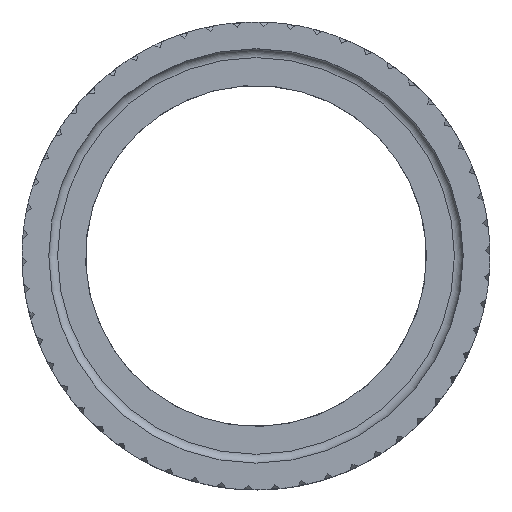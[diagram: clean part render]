
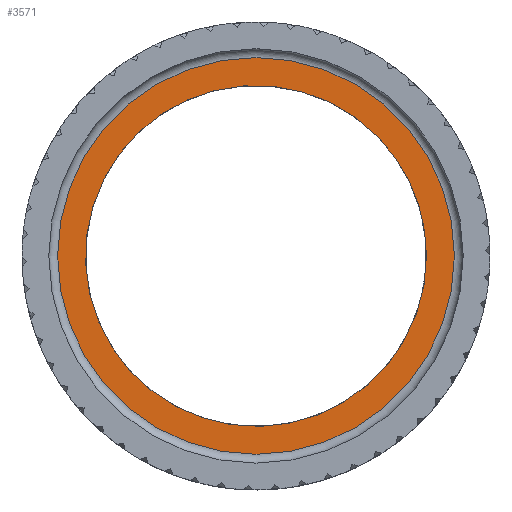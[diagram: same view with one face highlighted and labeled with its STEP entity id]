
A CAD part, top view. The second image highlights one B-rep face of the part: STEP entity #3571.
In plain terms, the highlighted planar face has unit normal (0, 0, 1).
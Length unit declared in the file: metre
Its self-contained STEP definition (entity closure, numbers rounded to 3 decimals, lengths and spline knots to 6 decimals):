
#681=ORIENTED_EDGE('',*,*,#1909,.T.);
#682=ORIENTED_EDGE('',*,*,#1910,.T.);
#1909=EDGE_CURVE('',#2523,#2523,#2935,.F.);
#1910=EDGE_CURVE('',#2524,#2524,#2936,.T.);
#2523=VERTEX_POINT('',#4436);
#2524=VERTEX_POINT('',#4438);
#2935=CIRCLE('',#3797,0.03375);
#2936=CIRCLE('',#3798,0.029);
#3053=EDGE_LOOP('',(#681));
#3054=EDGE_LOOP('',(#682));
#3275=FACE_BOUND('',#3053,.T.);
#3276=FACE_BOUND('',#3054,.T.);
#3497=PLANE('',#3796);
#3571=ADVANCED_FACE('',(#3275,#3276),#3497,.F.);
#3796=AXIS2_PLACEMENT_3D('',#4434,#3998,#3999);
#3797=AXIS2_PLACEMENT_3D('',#4435,#4000,#4001);
#3798=AXIS2_PLACEMENT_3D('',#4437,#4002,#4003);
#3998=DIRECTION('',(0.,0.,-1.));
#3999=DIRECTION('',(0.819,0.574,0.));
#4000=DIRECTION('',(0.,0.,-1.));
#4001=DIRECTION('',(1.,0.,0.));
#4002=DIRECTION('',(0.,0.,-1.));
#4003=DIRECTION('',(1.,0.,0.));
#4434=CARTESIAN_POINT('',(0.,0.,0.0768));
#4435=CARTESIAN_POINT('',(0.,0.,0.0768));
#4436=CARTESIAN_POINT('',(0.03375,0.,0.0768));
#4437=CARTESIAN_POINT('',(0.,0.,0.0768));
#4438=CARTESIAN_POINT('',(0.029,0.,0.0768));
